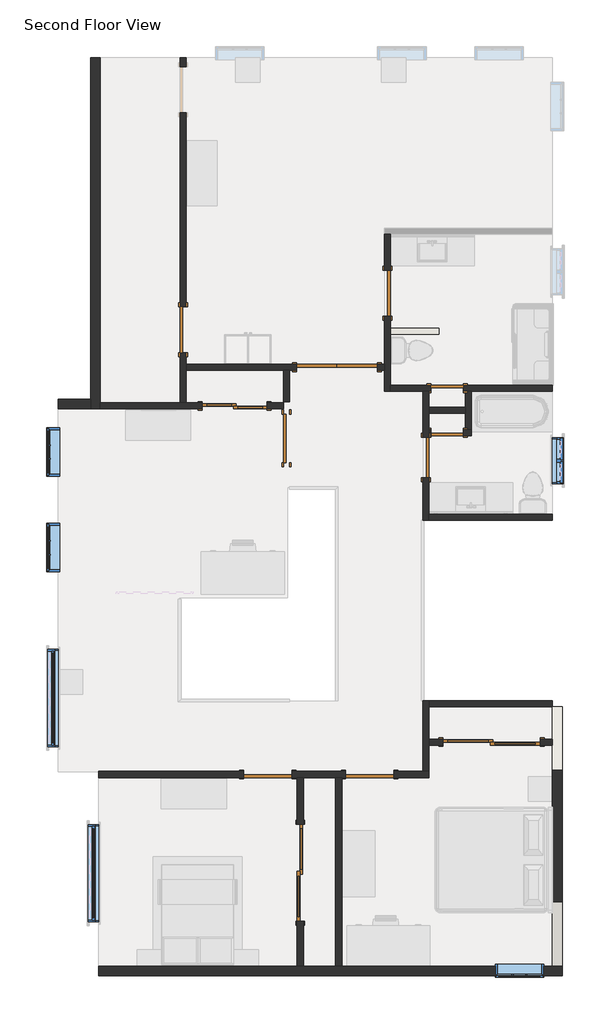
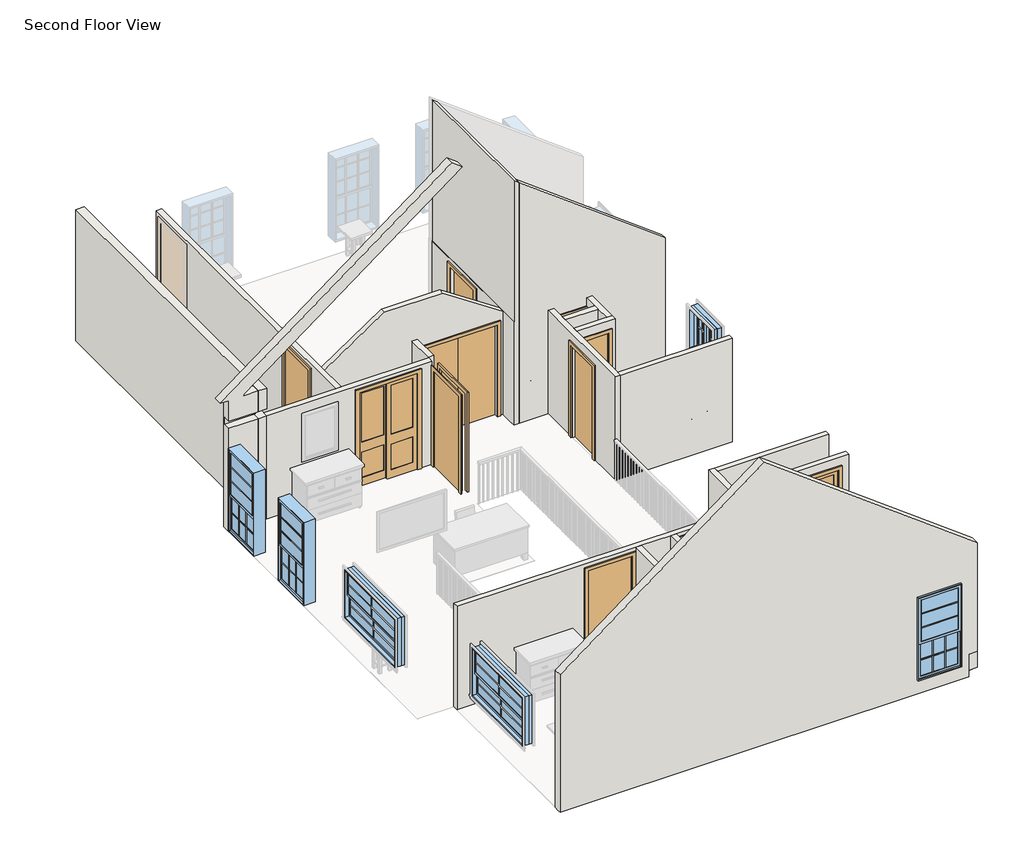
# One storey, part 1 of 3: 22 walls, 12 doors, 6 windows.
"""IFC4 building model written with IfcOpenShell, lengths in millimetres."""

from ifc_helpers import new_model, si_unit, frame, origin, place, context, project, spatial, polyline, outline, extrude, faceted_brep, transform, mapped, element, save
from components import door_907d17c1, door_d2bb450e, door_f2b275c1, door_70e57c00, door_700d3439, door_e5f9f3c4, door_305aa2a5, door_24e9c58a, door_caaf2a11, window_96_lite_window_with_shutters_3850_single_hung_3x3_51791338, window_2368842e, window_64dbae8b

model = new_model("IFC4")

# Units and contexts
model_context = context("Model", 3, world=origin())
ifc_project = project(units=[si_unit("LENGTHUNIT", "METRE", prefix="MILLI")], contexts=[model_context])

# Site, building, storey
site = spatial("IfcSite", under=ifc_project)
building = spatial("IfcBuilding", under=site)
storey = spatial("IfcBuildingStorey", under=building, Name="Second Floor View", Elevation=2590.8)

# Doors
placement = place(None, origin())
door_shape = door_907d17c1(model_context)
element("IfcDoor", 1, ObjectType="Door-Double-Flush_Panel : 68\" x 80\"", at=placement, inside=storey, context=model_context, shape_type="MappedRepresentation", body=[
    mapped(door_shape, transform((-5309.5980992, 4265.3922697, 2590.8), x_axis=(1.0, 0.0, 0.0), y_axis=(0.0, 1.0, 0.0), z_axis=(0.0, 0.0, 1.0))),
])
door_2_shape = door_d2bb450e(model_context)
element("IfcDoor", 2, ObjectType="Single-Flush : 24\" x 80\"", at=placement, inside=storey, context=model_context, shape_type="MappedRepresentation", body=[
    mapped(door_2_shape, transform((-3236.3230992, 3036.6672697, 2590.8), x_axis=(-1.0, 0.0, 0.0), y_axis=(0.0, -1.0, 0.0), z_axis=(0.0, 0.0, 1.0))),
])
element("IfcDoor", 3, ObjectType="Single-Flush : 24\" x 80\"", at=placement, inside=storey, context=model_context, shape_type="MappedRepresentation", body=[
    mapped(door_2_shape, transform((-3236.3230992, 3874.8672697, 2590.8), x_axis=(1.0, 0.0, 0.0), y_axis=(0.0, 1.0, 0.0), z_axis=(0.0, 0.0, 1.0))),
])
door_3_shape = door_f2b275c1(model_context)
element("IfcDoor", 4, ObjectType="Single-Flush : 30\" x 80\"", at=placement, inside=storey, context=model_context, shape_type="MappedRepresentation", body=[
    mapped(door_3_shape, transform((-3636.3730992, 2569.9422697, 2590.8), x_axis=(0.0, 1.0, 0.0), y_axis=(-1.0, 0.0, 0.0), z_axis=(0.0, 0.0, 1.0))),
])
door_4_shape = door_70e57c00(model_context)
element("IfcDoor", 5, ObjectType="Single-Flush : 34\" x 84\"", at=placement, inside=storey, context=model_context, shape_type="MappedRepresentation", body=[
    mapped(door_4_shape, transform((-8202.0230992, 4976.5922697, 2590.8), x_axis=(0.0, 1.0, 0.0), y_axis=(-1.0, 0.0, 0.0), z_axis=(0.0, 0.0, 1.0))),
])
door_5_shape = door_700d3439(model_context)
element("IfcDoor", 6, ObjectType="Single-Flush : 34\" x 84\"", at=placement, inside=storey, context=model_context, shape_type="MappedRepresentation", body=[
    mapped(door_5_shape, transform((-4360.2730992, 5656.0422697, 2590.8), x_axis=(0.0, 1.0, 0.0), y_axis=(-1.0, 0.0, 0.0), z_axis=(0.0, 0.0, 1.0))),
])
door_6_shape = door_e5f9f3c4(model_context)
element("IfcDoor", 7, ObjectType="Single-Flush : 36\" x 84\"", at=placement, inside=storey, context=model_context, shape_type="MappedRepresentation", body=[
    mapped(door_6_shape, transform((-4690.4730992, -3386.3577303, 2590.8), x_axis=(-1.0, 0.0, 0.0), y_axis=(0.0, -1.0, 0.0), z_axis=(0.0, 0.0, 1.0))),
])
element("IfcDoor", 8, ObjectType="Single-Flush : 36\" x 84\"", at=placement, inside=storey, context=model_context, shape_type="MappedRepresentation", body=[
    mapped(door_6_shape, transform((-6258.9230992, 2931.8922697, 2590.8), x_axis=(0.0, 1.0, 0.0), y_axis=(-1.0, 0.0, 0.0), z_axis=(0.0, 0.0, 1.0))),
])
door_7_shape = door_305aa2a5(model_context)
element("IfcDoor", 9, ObjectType="Single-Flush : 36\" x 84\"", at=placement, inside=storey, context=model_context, shape_type="MappedRepresentation", body=[
    mapped(door_7_shape, transform((-6608.1730992, -3386.3577303, 2590.8), x_axis=(1.0, 0.0, 0.0), y_axis=(0.0, 1.0, 0.0), z_axis=(0.0, 0.0, 1.0))),
])
door_8_shape = door_24e9c58a(model_context)
element("IfcDoor", 10, ObjectType="Sliding-Closet : 48\" x 84\"", at=placement, inside=storey, context=model_context, shape_type="MappedRepresentation", body=[
    mapped(door_8_shape, transform((-7230.4730992, 3668.4922697, 2590.8), x_axis=(-1.0, 0.0, 0.0), y_axis=(0.0, -1.0, 0.0), z_axis=(0.0, 0.0, 1.0))),
])
door_9_shape = door_caaf2a11(model_context)
element("IfcDoor", 11, ObjectType="Sliding-Closet : 72\" x 80\"", at=placement, inside=storey, context=model_context, shape_type="MappedRepresentation", body=[
    mapped(door_9_shape, transform((-2400.5043492, -2649.7577303, 2590.8), x_axis=(-1.0, 0.0, 0.0), y_axis=(0.0, -1.0, 0.0), z_axis=(0.0, 0.0, 1.0))),
])
element("IfcDoor", 12, ObjectType="Sliding-Closet : 72\" x 80\"", at=placement, inside=storey, context=model_context, shape_type="MappedRepresentation", body=[
    mapped(door_9_shape, transform((-5871.5730992, -5231.8264803, 2590.8), x_axis=(0.0, 1.0, 0.0), y_axis=(-1.0, 0.0, 0.0), z_axis=(0.0, 0.0, 1.0))),
])

# Walls
element("IfcWall", 13, ObjectType="Interior - 4 1/2\" Partition", at=placement, inside=storey, context=model_context, shape_type="Brep", body=[
    faceted_brep([(-9760.9480992, 3484.3422697, 2590.8), (-7840.0730992, 3484.3422697, 2590.8), (-7840.0730992, 3484.3422697, 4724.4), (-6620.8730992, 3484.3422697, 4724.4), (-6620.8730992, 3484.3422697, 2590.8), (-6316.0730992, 3484.3422697, 2590.8), (-6316.0730992, 3484.3422697, 4876.8), (-9760.9480992, 3484.3422697, 4876.8), (-7840.0730992, 3598.6422697, 4724.4), (-7840.0730992, 3598.6422697, 2590.8), (-8144.8730992, 3598.6422697, 2590.8), (-8259.1730992, 3598.6422697, 2590.8), (-9760.9480992, 3598.6422697, 2590.8), (-9760.9480992, 3598.6422697, 4876.8), (-8259.1730992, 3598.6422697, 4876.8), (-8144.8730992, 3598.6422697, 4876.8), (-6316.0730992, 3598.6422697, 4876.8), (-6316.0730992, 3598.6422697, 2590.8), (-6620.8730992, 3598.6422697, 2590.8), (-6620.8730992, 3598.6422697, 4724.4)], [[[0, 1, 2, 3, 4, 5, 6, 7]], [[8, 9, 10, 11, 12, 13, 14, 15, 16, 17, 18, 19]], [[18, 17, 5, 4]], [[12, 11, 10, 9, 1, 0]], [[0, 7, 13, 12]], [[6, 5, 17, 16]], [[7, 6, 16, 15, 14, 13]], [[4, 3, 19, 18]], [[2, 1, 9, 8]], [[3, 2, 8, 19]]]),
])
element("IfcWall", 14, ObjectType="Interior - 4 1/2\" Partition", at=placement, inside=storey, context=model_context, shape_type="Brep", body=[
    faceted_brep([(-6150.9730992, -3443.5077303, 4724.4), (-6150.9730992, -3443.5077303, 2590.8), (-6055.7230992, -3443.5077303, 2590.8), (-5941.4230992, -3443.5077303, 2590.8), (-5331.8230992, -3443.5077303, 2590.8), (-5217.5230992, -3443.5077303, 2590.8), (-5147.6730992, -3443.5077303, 2590.8), (-5147.6730992, -3443.5077303, 4724.4), (-4233.2730992, -3443.5077303, 4724.4), (-4233.2730992, -3443.5077303, 2590.8), (-3579.2230992, -3443.5077303, 2590.8), (-3579.2230992, -3443.5077303, 4876.8), (-5217.5230992, -3443.5077303, 4876.8), (-5331.8230992, -3443.5077303, 4876.8), (-5941.4230992, -3443.5077303, 4876.8), (-6055.7230992, -3443.5077303, 4876.8), (-9789.5230992, -3443.5077303, 4876.8), (-9789.5230992, -3443.5077303, 2590.8), (-7065.3730992, -3443.5077303, 2590.8), (-7065.3730992, -3443.5077303, 4724.4), (-5147.6730992, -3329.2077303, 2590.8), (-6150.9730992, -3329.2077303, 2590.8), (-6150.9730992, -3329.2077303, 4724.4), (-7065.3730992, -3329.2077303, 4724.4), (-7065.3730992, -3329.2077303, 2590.8), (-9789.5230992, -3329.2077303, 2590.8), (-9789.5230992, -3329.2077303, 4876.8), (-3693.5230992, -3329.2077303, 4876.8), (-3579.2230992, -3329.2077303, 4876.8), (-3579.2230992, -3329.2077303, 2590.8), (-3693.5230992, -3329.2077303, 2590.8), (-4233.2730992, -3329.2077303, 2590.8), (-4233.2730992, -3329.2077303, 4724.4), (-5147.6730992, -3329.2077303, 4724.4)], [[[0, 1, 2, 3, 4, 5, 6, 7, 8, 9, 10, 11, 12, 13, 14, 15, 16, 17, 18, 19]], [[20, 21, 22, 23, 24, 25, 26, 27, 28, 29, 30, 31, 32, 33]], [[31, 30, 29, 10, 9]], [[18, 17, 25, 24]], [[6, 5, 4, 3, 2, 1, 21, 20]], [[11, 10, 29, 28]], [[16, 15, 14, 13, 12, 11, 28, 27, 26]], [[17, 16, 26, 25]], [[7, 6, 20, 33]], [[8, 7, 33, 32]], [[9, 8, 32, 31]], [[22, 21, 1, 0]], [[23, 22, 0, 19]], [[24, 23, 19, 18]]]),
])
element("IfcWall", 15, ObjectType="Interior - 4 1/2\" Partition", at=placement, inside=storey, context=model_context, shape_type="Brep", body=[
    faceted_brep([(-3579.2230992, -3329.2077303, 2590.8), (-3579.2230992, -2833.9077303, 2590.8), (-3579.2230992, -2719.6077303, 2590.8), (-3579.2230992, -2110.0077303, 2590.8), (-3579.2230992, -1995.7077303, 2590.8), (-3579.2230992, -1995.7077303, 4876.8), (-3579.2230992, -2110.0077303, 4876.8), (-3579.2230992, -2719.6077303, 4876.8), (-3579.2230992, -2833.9077303, 4876.8), (-3579.2230992, -3329.2077303, 4876.8), (-3693.5230992, -3329.2077303, 2590.8), (-3693.5230992, -3329.2077303, 4876.8), (-3693.5230992, -1995.7077303, 4876.8), (-3693.5230992, -1995.7077303, 2590.8)], [[[0, 1, 2, 3, 4, 5, 6, 7, 8, 9]], [[10, 11, 12, 13]], [[4, 3, 2, 1, 0, 10, 13]], [[0, 9, 11, 10]], [[5, 4, 13, 12]], [[9, 8, 7, 6, 5, 12, 11]]]),
])
element("IfcWall", 16, ObjectType="Interior - 4 1/2\" Partition", at=placement, inside=storey, context=model_context, shape_type="Brep", body=[
    faceted_brep([(-3579.2230992, -2110.0077303, 2590.8), (-1255.1230992, -2110.0077303, 2590.8), (-1255.1230992, -2110.0077303, 2743.2), (-1255.1230992, -2110.0077303, 3091.3655532), (-1255.1230992, -2110.0077303, 4876.8), (-3579.2230992, -2110.0077303, 4876.8), (-3579.2230992, -1995.7077303, 2590.8), (-3579.2230992, -1995.7077303, 4876.8), (-1255.1230992, -1995.7077303, 4876.8), (-1255.1230992, -1995.7077303, 2590.8)], [[[0, 1, 2, 3, 4, 5]], [[6, 7, 8, 9]], [[1, 0, 6, 9]], [[0, 5, 7, 6]], [[1, 9, 8, 4, 3, 2]], [[5, 4, 8, 7]]]),
])
element("IfcWall", 17, ObjectType="Interior - 4 1/2\" Partition", at=placement, inside=storey, context=model_context, shape_type="SweptSolid", body=[
    extrude(outline(polyline([(2590.8, -3579.2230992), (2590.8, -3314.9043492), (4622.8, -3314.9043492), (4622.8, -1486.1043492), (2590.8, -1486.1043492), (2590.8, -1255.1230992), (4876.8, -1255.1230992), (4876.8, -3579.2230992), (2590.8, -3579.2230992)])), frame((0.0, -2833.9077303, 0.0), z_axis=(0.0, 1.0, 0.0), x_axis=(0.0, 0.0, 1.0)), (0.0, 0.0, 1.0), 114.3),
])
element("IfcWall", 18, ObjectType="Interior - 4 1/2\" Partition", at=placement, inside=storey, context=model_context, shape_type="SweptSolid", body=[
    extrude(outline(polyline([(-3443.5077303, 2590.8), (-4317.4264803, 2590.8), (-4317.4264803, 4622.8), (-6146.2264803, 4622.8), (-6146.2264803, 2590.8), (-6986.8077303, 2590.8), (-6986.8077303, 4876.8), (-3443.5077303, 4876.8), (-3443.5077303, 2590.8)])), frame((-6055.7230992, 0.0, 0.0), z_axis=(1.0, 0.0, 0.0), x_axis=(0.0, 1.0, 0.0)), (0.0, 0.0, 1.0), 114.3),
])
element("IfcWall", 19, ObjectType="Interior - 4 1/2\" Partition", at=placement, inside=storey, context=model_context, shape_type="SweptSolid", body=[
    extrude(outline(polyline([(-5331.8230992, -6986.8077303), (-5331.8230992, -3443.5077303), (-5217.5230992, -3443.5077303), (-5217.5230992, -6986.8077303), (-5331.8230992, -6986.8077303)])), frame((0.0, 0.0, 2590.8), z_axis=(0.0, 0.0, 1.0), x_axis=(1.0, 0.0, 0.0)), (0.0, 0.0, 1.0), 2286.0),
])
element("IfcWall", 20, ObjectType="Interior - 4 1/2\" Partition", at=placement, inside=storey, context=model_context, shape_type="SweptSolid", body=[
    extrude(outline(polyline([(-6201.7730992, 4208.2422697), (-6201.7730992, 3620.8672697), (-6316.0730992, 3620.8672697), (-6316.0730992, 4208.2422697), (-6201.7730992, 4208.2422697)])), frame((0.0, 0.0, 2590.8), z_axis=(0.0, 0.0, 1.0), x_axis=(1.0, 0.0, 0.0)), (0.0, 0.0, 1.0), 2286.0),
])
element("IfcWall", 21, ObjectType="Interior - 4 1/2\" Partition", at=placement, inside=storey, context=model_context, shape_type="Brep", body=[
    faceted_brep([(-8144.8730992, 5408.3922697, 4724.4), (-8144.8730992, 5408.3922697, 2590.8), (-8144.8730992, 9054.8797697, 2590.8), (-8144.8730992, 9054.8797697, 4724.4), (-8144.8730992, 9918.4797697, 4724.4), (-8144.8730992, 9918.4797697, 2590.8), (-8144.8730992, 10081.9922697, 2590.8), (-8144.8730992, 10081.9922697, 4876.8), (-8144.8730992, 4322.5422697, 4876.8), (-8144.8730992, 3598.6422697, 4876.8), (-8144.8730992, 3598.6422697, 2590.8), (-8144.8730992, 4208.2422697, 2590.8), (-8144.8730992, 4322.5422697, 2590.8), (-8144.8730992, 4544.7922697, 2590.8), (-8144.8730992, 4544.7922697, 4724.4), (-8259.1730992, 9054.8797697, 2590.8), (-8259.1730992, 5408.3922697, 2590.8), (-8259.1730992, 5408.3922697, 4724.4), (-8259.1730992, 4544.7922697, 4724.4), (-8259.1730992, 4544.7922697, 2590.8), (-8259.1730992, 3598.6422697, 2590.8), (-8259.1730992, 3598.6422697, 4876.8), (-8259.1730992, 10081.9922697, 4876.8), (-8259.1730992, 10081.9922697, 2590.8), (-8259.1730992, 9918.4797697, 2590.8), (-8259.1730992, 9918.4797697, 4724.4), (-8259.1730992, 9054.8797697, 4724.4)], [[[0, 1, 2, 3, 4, 5, 6, 7, 8, 9, 10, 11, 12, 13, 14]], [[15, 16, 17, 18, 19, 20, 21, 22, 23, 24, 25, 26]], [[6, 5, 24, 23]], [[2, 1, 16, 15]], [[13, 12, 11, 10, 20, 19]], [[7, 6, 23, 22]], [[10, 9, 21, 20]], [[9, 8, 7, 22, 21]], [[25, 24, 5, 4]], [[26, 25, 4, 3]], [[15, 26, 3, 2]], [[17, 16, 1, 0]], [[18, 17, 0, 14]], [[19, 18, 14, 13]]]),
])
element("IfcWall", 22, ObjectType="Interior - 4 1/2\" Partition", at=placement, inside=storey, context=model_context, shape_type="Brep", body=[
    faceted_brep([(-3579.2230992, 1388.8422697, 4876.8), (-3579.2230992, 1388.8422697, 2590.8), (-3579.2230992, 1503.1422697, 2590.8), (-3579.2230992, 2188.9422697, 2590.8), (-3579.2230992, 2188.9422697, 4622.8), (-3579.2230992, 2950.9422697, 4622.8), (-3579.2230992, 2950.9422697, 2590.8), (-3579.2230992, 2979.5172697, 2590.8), (-3579.2230992, 3093.8172697, 2590.8), (-3579.2230992, 3398.6172697, 2590.8), (-3579.2230992, 3512.9172697, 2590.8), (-3579.2230992, 3817.7172697, 2590.8), (-3579.2230992, 3817.7172697, 4876.8), (-3579.2230992, 3512.9172697, 4876.8), (-3579.2230992, 3398.6172697, 4876.8), (-3579.2230992, 3093.8172697, 4876.8), (-3579.2230992, 2979.5172697, 4876.8), (-3579.2230992, 1503.1422697, 4876.8), (-3693.5230992, 1388.8422697, 2590.8), (-3693.5230992, 1388.8422697, 4876.8), (-3693.5230992, 3817.7172697, 4876.8), (-3693.5230992, 3817.7172697, 2590.8), (-3693.5230992, 2950.9422697, 2590.8), (-3693.5230992, 2950.9422697, 4622.8), (-3693.5230992, 2188.9422697, 4622.8), (-3693.5230992, 2188.9422697, 2590.8)], [[[0, 1, 2, 3, 4, 5, 6, 7, 8, 9, 10, 11, 12, 13, 14, 15, 16, 17]], [[18, 19, 20, 21, 22, 23, 24, 25]], [[1, 18, 25, 3, 2]], [[21, 11, 10, 9, 8, 7, 6, 22]], [[1, 0, 19, 18]], [[5, 23, 22, 6]], [[24, 4, 3, 25]], [[4, 24, 23, 5]], [[12, 11, 21, 20]], [[0, 17, 16, 15, 14, 13, 12, 20, 19]]]),
])
element("IfcWall", 23, ObjectType="Interior - 4 1/2\" Partition", at=placement, inside=storey, context=model_context, shape_type="Brep", body=[
    faceted_brep([(-8144.8730992, 4208.2422697, 4876.8), (-8144.8730992, 4208.2422697, 2590.8), (-6316.0730992, 4208.2422697, 2590.8), (-6201.7730992, 4208.2422697, 2590.8), (-6071.5980992, 4208.2422697, 2590.8), (-6071.5980992, 4208.2422697, 4622.8), (-4547.5980992, 4208.2422697, 4622.8), (-4547.5980992, 4208.2422697, 2590.8), (-4417.4230992, 4208.2422697, 2590.8), (-4417.4230992, 4208.2422697, 4876.7978748), (-5671.5946866, 4208.2422697, 5712.9122664), (-6890.7480206, 4208.2422697, 5712.9122664), (-8144.8730992, 4322.5422697, 2590.8), (-8144.8730992, 4322.5422697, 4876.8), (-6890.7480206, 4322.5422697, 5712.9122664), (-5671.5946866, 4322.5422697, 5712.9122664), (-4417.4230992, 4322.5422697, 4876.7978748), (-4417.4230992, 4322.5422697, 2590.8), (-4547.5980992, 4322.5422697, 2590.8), (-4547.5980992, 4322.5422697, 4622.8), (-6071.5980992, 4322.5422697, 4622.8), (-6071.5980992, 4322.5422697, 2590.8)], [[[0, 1, 2, 3, 4, 5, 6, 7, 8, 9, 10, 11]], [[12, 13, 14, 15, 16, 17, 18, 19, 20, 21]], [[1, 0, 13, 12]], [[9, 8, 17, 16]], [[1, 12, 21, 4, 3, 2]], [[17, 8, 7, 18]], [[11, 10, 15, 14]], [[0, 11, 14, 13]], [[6, 19, 18, 7]], [[19, 6, 5, 20]], [[20, 5, 4, 21]], [[10, 9, 16, 15]]]),
])
element("IfcWall", 24, ObjectType="Interior - 4 1/2\" Partition", at=placement, inside=storey, context=model_context, shape_type="Brep", body=[
    faceted_brep([(-3579.2230992, 2979.5172697, 2590.8), (-3541.1230992, 2979.5172697, 2590.8), (-3541.1230992, 2979.5172697, 4622.8), (-2931.5230992, 2979.5172697, 4622.8), (-2931.5230992, 2979.5172697, 2590.8), (-2779.1230992, 2979.5172697, 2590.8), (-2779.1230992, 2979.5172697, 4876.8), (-3579.2230992, 2979.5172697, 4876.8), (-3541.1230992, 3093.8172697, 4622.8), (-3541.1230992, 3093.8172697, 2590.8), (-3579.2230992, 3093.8172697, 2590.8), (-3579.2230992, 3093.8172697, 4876.8), (-2893.4230992, 3093.8172697, 4876.8), (-2779.1230992, 3093.8172697, 4876.8), (-2779.1230992, 3093.8172697, 2590.8), (-2893.4230992, 3093.8172697, 2590.8), (-2931.5230992, 3093.8172697, 2590.8), (-2931.5230992, 3093.8172697, 4622.8)], [[[0, 1, 2, 3, 4, 5, 6, 7]], [[8, 9, 10, 11, 12, 13, 14, 15, 16, 17]], [[10, 9, 1, 0]], [[16, 15, 14, 5, 4]], [[0, 7, 11, 10]], [[6, 5, 14, 13]], [[7, 6, 13, 12, 11]], [[2, 1, 9, 8]], [[3, 2, 8, 17]], [[4, 3, 17, 16]]]),
])
element("IfcWall", 25, ObjectType="Interior - 4 1/2\" Partition", at=placement, inside=storey, context=model_context, shape_type="Brep", body=[
    faceted_brep([(-2779.1230992, 3093.8172697, 2590.8), (-2779.1230992, 3817.7172697, 2590.8), (-2779.1230992, 3817.7172697, 4876.8), (-2779.1230992, 3093.8172697, 4876.8), (-2893.4230992, 3093.8172697, 2590.8), (-2893.4230992, 3093.8172697, 4876.8), (-2893.4230992, 3398.6172697, 4876.8), (-2893.4230992, 3512.9172697, 4876.8), (-2893.4230992, 3817.7172697, 4876.8), (-2893.4230992, 3817.7172697, 2590.8), (-2893.4230992, 3512.9172697, 2590.8), (-2893.4230992, 3398.6172697, 2590.8)], [[[0, 1, 2, 3]], [[4, 5, 6, 7, 8, 9, 10, 11]], [[1, 0, 4, 11, 10, 9]], [[0, 3, 5, 4]], [[2, 1, 9, 8]], [[3, 2, 8, 7, 6, 5]]]),
])
element("IfcWall", 26, ObjectType="Interior - 4 1/2\" Partition", at=placement, inside=storey, context=model_context, shape_type="SweptSolid", body=[
    extrude(outline(polyline([(-3579.2230992, 1503.1422697), (-1255.1230992, 1503.1422697), (-1255.1230992, 1388.8422697), (-3579.2230992, 1388.8422697), (-3579.2230992, 1503.1422697)])), frame((0.0, 0.0, 2590.8), z_axis=(0.0, 0.0, 1.0), x_axis=(1.0, 0.0, 0.0)), (0.0, 0.0, 1.0), 2286.0),
])
element("IfcWall", 27, ObjectType="Interior - 4 1/2\" Partition", at=placement, inside=storey, context=model_context, shape_type="Brep", body=[
    faceted_brep([(-4303.1230992, 6087.8422697, 4724.4), (-4303.1230992, 6087.8422697, 2590.8), (-4303.1230992, 6767.2922697, 2590.8), (-4303.1230992, 6767.2922697, 7908.13125), (-4303.1230992, 3932.0172697, 7908.13125), (-4303.1230992, 3817.7172697, 7908.13125), (-4303.1230992, 3817.7172697, 2590.8), (-4303.1230992, 3932.0172697, 2590.8), (-4303.1230992, 4890.8672697, 2590.8), (-4303.1230992, 5005.1672697, 2590.8), (-4303.1230992, 5224.2422697, 2590.8), (-4303.1230992, 5224.2422697, 4724.4), (-4417.4230992, 6767.2922697, 2590.8), (-4417.4230992, 6087.8422697, 2590.8), (-4417.4230992, 6087.8422697, 4724.4), (-4417.4230992, 5224.2422697, 4724.4), (-4417.4230992, 5224.2422697, 2590.8), (-4417.4230992, 4322.5422697, 2590.8), (-4417.4230992, 4208.2422697, 2590.8), (-4417.4230992, 3817.7172697, 2590.8), (-4417.4230992, 3817.7172697, 4876.8), (-4417.4230992, 4322.5422697, 4876.8), (-4417.4230992, 6767.2922697, 4876.8), (-4407.8980992, 6767.2922697, 4876.8), (-4407.8980992, 6767.2922697, 7986.7125), (-4407.8980992, 3817.7172697, 7986.7125), (-4407.8980992, 3817.7172697, 4876.8)], [[[0, 1, 2, 3, 4, 5, 6, 7, 8, 9, 10, 11]], [[12, 13, 14, 15, 16, 17, 18, 19, 20, 21, 22]], [[2, 1, 13, 12]], [[10, 9, 8, 7, 6, 19, 18, 17, 16]], [[3, 2, 12, 22, 23, 24]], [[6, 5, 25, 26, 20, 19]], [[14, 13, 1, 0]], [[15, 14, 0, 11]], [[16, 15, 11, 10]], [[25, 24, 23, 26]], [[23, 22, 21, 20, 26]], [[5, 4, 3, 24, 25]]]),
])
element("IfcWall", 28, ObjectType="Interior - 4 1/2\" Partition", at=placement, inside=storey, context=model_context, shape_type="SweptSolid", body=[
    extrude(outline(polyline([(-3579.2230992, 3512.9172697), (-2893.4230992, 3512.9172697), (-2893.4230992, 3398.6172697), (-3579.2230992, 3398.6172697), (-3579.2230992, 3512.9172697)])), frame((0.0, 0.0, 2590.8), z_axis=(0.0, 0.0, 1.0), x_axis=(1.0, 0.0, 0.0)), (0.0, 0.0, 1.0), 2286.0),
])
element("IfcWall", 29, ObjectType="Interior - 4 1/2\" Partition", at=placement, inside=storey, context=model_context, shape_type="Brep", body=[
    faceted_brep([(-2931.5230992, 3817.7172697, 4622.8), (-2931.5230992, 3817.7172697, 2590.8), (-2893.4230992, 3817.7172697, 2590.8), (-2779.1230992, 3817.7172697, 2590.8), (-1255.1230992, 3817.7172697, 2590.8), (-1255.1230992, 3817.7172697, 4876.8), (-1255.1230992, 3817.7172697, 5029.2), (-1255.1230992, 3817.7172697, 5622.13125), (-4303.1230992, 3817.7172697, 7908.13125), (-4303.1230992, 3817.7172697, 2590.8), (-3693.5230992, 3817.7172697, 2590.8), (-3579.2230992, 3817.7172697, 2590.8), (-3541.1230992, 3817.7172697, 2590.8), (-3541.1230992, 3817.7172697, 4622.8), (-1255.1230992, 3932.0172697, 2590.8), (-2931.5230992, 3932.0172697, 2590.8), (-2931.5230992, 3932.0172697, 4622.8), (-3541.1230992, 3932.0172697, 4622.8), (-3541.1230992, 3932.0172697, 2590.8), (-4303.1230992, 3932.0172697, 2590.8), (-4303.1230992, 3932.0172697, 7908.13125), (-1255.1230992, 3932.0172697, 5622.13125)], [[[0, 1, 2, 3, 4, 5, 6, 7, 8, 9, 10, 11, 12, 13]], [[14, 15, 16, 17, 18, 19, 20, 21]], [[12, 11, 10, 9, 19, 18]], [[4, 3, 2, 1, 15, 14]], [[7, 6, 5, 4, 14, 21]], [[9, 8, 20, 19]], [[8, 7, 21, 20]], [[16, 15, 1, 0]], [[17, 16, 0, 13]], [[18, 17, 13, 12]]]),
])
element("IfcWall", 30, ObjectType="Interior - 4 1/2\" Partition", at=placement, inside=storey, context=model_context, shape_type="SweptSolid", body=[
    extrude(outline(polyline([(-3388.7230992, 4890.8672697), (-4303.1230992, 4890.8672697), (-4303.1230992, 5005.1672697), (-3388.7230992, 5005.1672697), (-3388.7230992, 4890.8672697)])), frame((0.0, 0.0, 2590.8), z_axis=(0.0, 0.0, 1.0), x_axis=(1.0, 0.0, 0.0)), (0.0, 0.0, 1.0), 914.4),
])
element("IfcWall", 31, ObjectType="Siding For My House", at=placement, inside=storey, context=model_context, shape_type="Brep", body=[
    faceted_brep([(-9760.9480992, 10081.9922697, 5486.4), (-9760.9480992, 3484.3422697, 5486.4), (-9760.9480992, 3484.3422697, 5029.2), (-9760.9480992, 10081.9922697, 5029.2), (-9760.9480992, 3484.3422697, 2590.8), (-9760.9480992, 3598.6422697, 2590.8), (-9760.9480992, 10081.9922697, 2590.8), (-9760.9480992, 10081.9922697, 4876.8), (-9760.9480992, 3598.6422697, 4876.8), (-9760.9480992, 3484.3422697, 4876.8), (-9941.9230992, 10081.9922697, 2590.8), (-9941.9230992, 3665.3172697, 2590.8), (-9941.9230992, 3484.3422697, 2590.8), (-9941.9230992, 3484.3422697, 4876.8), (-9941.9230992, 3636.7422697, 4876.8), (-9941.9230992, 3636.7422697, 5029.2), (-9941.9230992, 3484.3422697, 5029.2), (-9941.9230992, 3484.3422697, 5486.4), (-9941.9230992, 3665.3172697, 5486.4), (-9941.9230992, 10081.9922697, 5486.4), (-9941.9230992, 10081.9922697, 2827.3375), (-9913.3480992, 10081.9922697, 4876.8), (-9913.3480992, 3636.7422697, 4876.8), (-9913.3480992, 3636.7422697, 5029.2), (-9913.3480992, 10081.9922697, 5029.2)], [[[0, 1, 2, 3]], [[4, 5, 6, 7, 8, 9]], [[10, 11, 12, 13, 14, 15, 16, 17, 18, 19, 20]], [[6, 5, 4, 12, 11, 10]], [[1, 0, 19, 18, 17]], [[1, 17, 16, 2]], [[12, 4, 9, 13]], [[21, 22, 14, 13, 9, 8, 7]], [[15, 23, 24, 3, 2, 16]], [[23, 22, 21, 24]], [[6, 10, 20, 19, 0, 3, 24, 21, 7]], [[22, 23, 15, 14]]]),
])
element("IfcWall", 32, ObjectType="Siding For My House", at=placement, inside=storey, context=model_context, shape_type="Brep", body=[
    faceted_brep([(-10551.5230992, 3484.3422697, 2590.8), (-9941.9230992, 3484.3422697, 2590.8), (-9941.9230992, 3484.3422697, 4876.8), (-10551.5230992, 3484.3422697, 4876.8), (-9941.9230992, 3484.3422697, 5486.4), (-10246.7230992, 3484.3422697, 5486.4), (-10246.7230992, 3484.3422697, 5519.7375), (-5682.6605992, 3484.3422697, 8942.784375), (-5903.3230992, 3484.3422697, 9108.28125), (-10732.4980992, 3484.3422697, 5486.4), (-10551.5230992, 3484.3422697, 5486.4), (-10551.5230992, 3484.3422697, 5029.2), (-9941.9230992, 3484.3422697, 5029.2), (-9941.9230992, 3665.3172697, 2590.8), (-10551.5230992, 3665.3172697, 2590.8), (-10551.5230992, 3665.3172697, 3183.73125), (-10551.5230992, 3665.3172697, 5486.4), (-10732.4980992, 3665.3172697, 5486.4), (-5903.3230992, 3665.3172697, 9108.28125), (-5682.6605992, 3665.3172697, 8942.784375), (-10246.7230992, 3665.3172697, 5519.7375), (-10246.7230992, 3665.3172697, 5486.4), (-9941.9230992, 3665.3172697, 5486.4), (-10551.5230992, 3616.1047697, 2590.8), (-10551.5230992, 3636.7422697, 4876.8), (-10551.5230992, 3636.7422697, 5029.2), (-9941.9230992, 3636.7422697, 4876.8), (-9941.9230992, 3636.7422697, 5029.2)], [[[0, 1, 2, 3]], [[4, 5, 6, 7, 8, 9, 10, 11, 12]], [[13, 14, 15, 16, 17, 18, 19, 20, 21, 22]], [[16, 15, 14, 23, 0, 3, 24, 25, 11, 10]], [[26, 24, 3, 2]], [[25, 27, 12, 11]], [[24, 26, 27, 25]], [[1, 0, 23, 14, 13]], [[5, 4, 22, 21]], [[7, 6, 20, 19]], [[8, 7, 19, 18]], [[9, 8, 18, 17]], [[10, 9, 17, 16]], [[1, 13, 22, 4, 12, 27, 26, 2]], [[6, 5, 21, 20]]]),
])
element("IfcWall", 33, ObjectType="Siding For My House", at=placement, inside=storey, context=model_context, shape_type="Brep", body=[
    faceted_brep([(-1255.1230992, -6986.8077303, 2590.8), (-2598.1480992, -6986.8077303, 2590.8), (-5217.5230992, -6986.8077303, 2590.8), (-5331.8230992, -6986.8077303, 2590.8), (-5941.4230992, -6986.8077303, 2590.8), (-6055.7230992, -6986.8077303, 2590.8), (-8751.2980992, -6986.8077303, 2590.8), (-9789.5230992, -6986.8077303, 2590.8), (-9789.5230992, -6986.8077303, 5622.13125), (-5522.3230992, -6986.8077303, 8822.53125), (-1074.1480992, -6986.8077303, 5486.4), (-1074.1480992, -6986.8077303, 3091.4586107), (-1255.1230992, -6986.8077303, 3091.4586107), (-1255.1230992, -6986.8077303, 2743.2), (-2333.0355992, -6986.8077303, 4724.4), (-2333.0355992, -6986.8077303, 2895.6), (-1418.6355992, -6986.8077303, 2895.6), (-1418.6355992, -6986.8077303, 4724.4), (-1255.1230992, -7167.7827303, 2590.8), (-1255.1230992, -7167.7827303, 2743.2), (-1255.1230992, -7167.7827303, 3091.4586107), (-1074.1480992, -7167.7827303, 3091.4586107), (-1074.1480992, -7167.7827303, 5486.4), (-5522.3230992, -7167.7827303, 8822.53125), (-9789.5230992, -7167.7827303, 5622.13125), (-9789.5230992, -7167.7827303, 5486.4), (-9789.5230992, -7167.7827303, 2590.8), (-8751.2980992, -7167.7827303, 2590.8), (-2598.1480992, -7167.7827303, 2590.8), (-2333.0355992, -7167.7827303, 4724.4), (-1418.6355992, -7167.7827303, 4724.4), (-1418.6355992, -7167.7827303, 2895.6), (-2333.0355992, -7167.7827303, 2895.6), (-9789.5230992, -7088.4077303, 2590.8)], [[[0, 1, 2, 3, 4, 5, 6, 7, 8, 9, 10, 11, 12, 13], [14, 15, 16, 17]], [[18, 19, 20, 21, 22, 23, 24, 25, 26, 27, 28], [29, 30, 31, 32]], [[7, 6, 5, 4, 3, 2, 1, 0, 18, 28, 27, 26, 33]], [[8, 7, 33, 26, 25, 24]], [[11, 21, 20, 12]], [[0, 13, 12, 20, 19, 18]], [[11, 10, 22, 21]], [[10, 9, 23, 22]], [[9, 8, 24, 23]], [[15, 14, 29, 32]], [[16, 15, 32, 31]], [[17, 16, 31, 30]], [[14, 17, 30, 29]]]),
])
element("IfcWall", 34, ObjectType="Thick Interior Wall", at=placement, inside=storey, context=model_context, shape_type="Brep", body=[
    faceted_brep([(-1255.1230992, -2110.0077303, 3091.3655532), (-1255.1230992, -2110.0077303, 2743.2), (-1255.1230992, -2110.0077303, 2590.8), (-1255.1230992, -2719.6077303, 2590.8), (-1255.1230992, -2833.9077303, 2590.8), (-1255.1230992, -6986.8077303, 2590.8), (-1255.1230992, -6986.8077303, 2743.2), (-1255.1230992, -7167.7827303, 2743.2), (-1255.1230992, -7167.7827303, 3091.4586107), (-1255.1230992, -6986.8077303, 3091.4586107), (-1255.1230992, -6986.6482031, 3091.4586107), (-1255.1230992, -4548.4077303, 4513.7655532), (-1074.1480992, -2110.0077303, 2590.8), (-1074.1480992, -2110.0077303, 3091.3655532), (-1074.1480992, -4548.4077303, 4513.7655532), (-1074.1480992, -6986.6482031, 3091.4586107), (-1074.1480992, -6986.8077303, 3091.4586107), (-1074.1480992, -7167.7827303, 3091.4586107), (-1074.1480992, -7167.7827303, 2743.2), (-1074.1480992, -6986.8077303, 2743.2), (-1074.1480992, -6986.8077303, 2590.8), (-1164.6355992, -6986.8077303, 2590.8)], [[[0, 1, 2, 3, 4, 5, 6, 7, 8, 9, 10, 11]], [[12, 13, 14, 15, 16, 17, 18, 19, 20]], [[5, 4, 3, 2, 12, 20, 21]], [[11, 10, 15, 14]], [[0, 11, 14, 13]], [[0, 13, 12, 2, 1]], [[18, 7, 6, 19]], [[6, 5, 21, 20, 19]], [[8, 7, 18, 17]], [[10, 9, 8, 17, 16, 15]]]),
])

# Windows
window_96_lite_window_with_shutters_3850_single_hung_3x3_shape = window_96_lite_window_with_shutters_3850_single_hung_3x3_51791338(model_context)
element("IfcWindow", 35, ObjectType="96_Lite_Window_with_Shutters_3850 : SINGLE HUNG 3x3", at=placement, inside=storey, context=model_context, shape_type="MappedRepresentation", body=[
    mapped(window_96_lite_window_with_shutters_3850_single_hung_3x3_shape, transform((-1875.8355992, -7077.2952303, 2590.8), x_axis=(-1.0, 0.0, 0.0), y_axis=(0.0, -1.0, 0.0), z_axis=(0.0, 0.0, 1.0))),
])
element("IfcWindow", 36, ObjectType="96_Lite_Window_with_Shutters_3850 : SINGLE HUNG 9/6 LITE", at=placement, inside=storey, context=model_context, shape_type="MappedRepresentation", body=[
    mapped(window_96_lite_window_with_shutters_3850_single_hung_3x3_shape, transform((-10642.0105992, 2676.3047697, 2590.8), x_axis=(0.0, 1.0, 0.0), y_axis=(-1.0, 0.0, 0.0), z_axis=(0.0, 0.0, 1.0))),
])
element("IfcWindow", 37, ObjectType="96_Lite_Window_with_Shutters_3850 : SINGLE HUNG 9/6 LITE", at=placement, inside=storey, context=model_context, shape_type="MappedRepresentation", body=[
    mapped(window_96_lite_window_with_shutters_3850_single_hung_3x3_shape, transform((-10642.0105992, 877.6672697, 2590.8), x_axis=(0.0, 1.0, 0.0), y_axis=(-1.0, 0.0, 0.0), z_axis=(0.0, 0.0, 1.0))),
])
window_shape = window_2368842e(model_context)
element("IfcWindow", 38, ObjectType="Window-Casement-Double : 34\" x 36\"", at=placement, inside=storey, context=model_context, shape_type="MappedRepresentation", body=[
    mapped(window_shape, transform((-1164.6355992, 2512.7922697, 2806.7), x_axis=(0.0, -1.0, 0.0), y_axis=(1.0, 0.0, 0.0), z_axis=(0.0, 0.0, 1.0))),
])
window_2_shape = window_64dbae8b(model_context)
element("IfcWindow", 39, ObjectType="Window-Double-Hung : 70\" x 42\" 2", at=placement, inside=storey, context=model_context, shape_type="MappedRepresentation", body=[
    mapped(window_2_shape, transform((-9880.0105992, -5240.5577303, 2590.8), x_axis=(0.0, 1.0, 0.0), y_axis=(-1.0, 0.0, 0.0), z_axis=(0.0, 0.0, 1.0))),
])
element("IfcWindow", 40, ObjectType="Window-Double-Hung : 70\" x 42\" 2", at=placement, inside=storey, context=model_context, shape_type="MappedRepresentation", body=[
    mapped(window_2_shape, transform((-10642.0105992, -1949.6702303, 2590.8), x_axis=(0.0, 1.0, 0.0), y_axis=(-1.0, 0.0, 0.0), z_axis=(0.0, 0.0, 1.0))),
])

save(model, "model.ifc")
